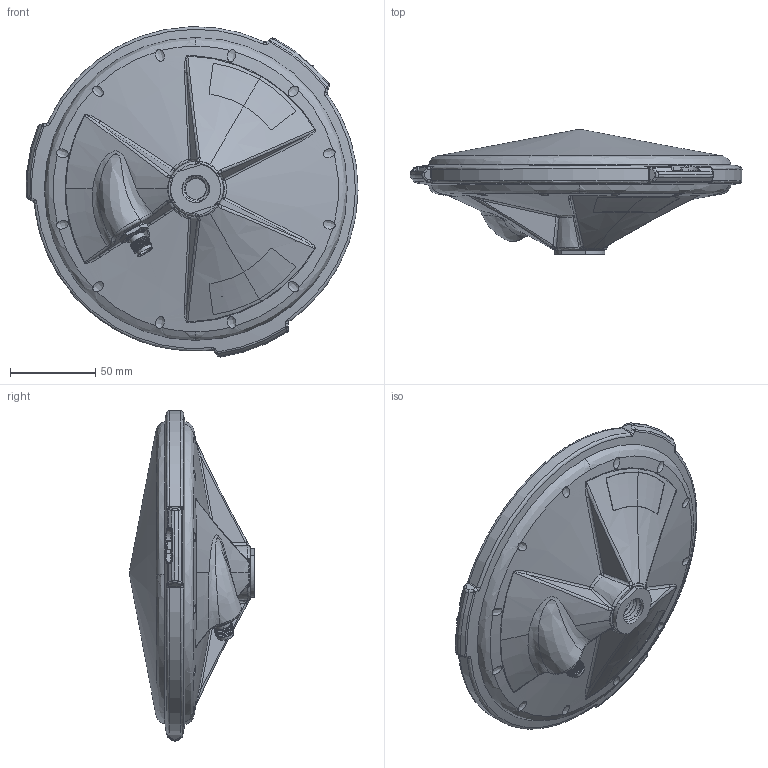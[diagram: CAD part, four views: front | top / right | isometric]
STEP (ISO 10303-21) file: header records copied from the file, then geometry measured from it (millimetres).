
FILE_DESCRIPTION (( 'STEP AP203' ), '1' );
FILE_NAME ('AT1675-540S for Customer.STEP', '2020-02-20T00:14:09', ( '' ), ( '' ), 'SwSTEP 2.0', 'SolidWorks 2016', '' );
FILE_SCHEMA (( 'CONFIG_CONTROL_DESIGN' ));
Length unit declared in the file: inch
Products named in the file (1): AT1675-540S for Customer
Bounding box: 194.76 x 73.25 x 193.73 mm (x, y, z)
Volume: 906978 mm3; surface area: 74512.6 mm2
Topology: 1 solids, 1 shells, 478 faces, 1194 edges, 724 vertices
Faces by surface type: bspline 273, plane 91, cone 62, cylinder 52
Full cylindrical faces by diameter (mm): 2.083 x1, 5.044 x1, 8.153 x1, 9.652 x2, 12.192 x5, 16.256 x1, 17.018 x1
Entity records: 46128 total; most frequent: CARTESIAN_POINT 37467, ORIENTED_EDGE 2276, EDGE_CURVE 1138, DIRECTION 1073, VERTEX_POINT 700, B_SPLINE_CURVE_WITH_KNOTS 620, EDGE_LOOP 506, FACE_OUTER_BOUND 481
